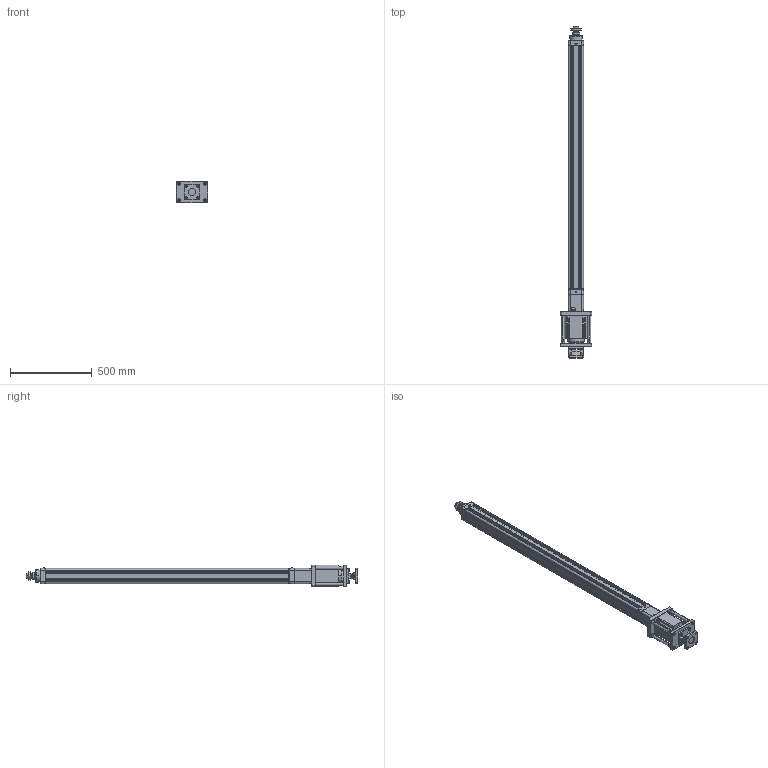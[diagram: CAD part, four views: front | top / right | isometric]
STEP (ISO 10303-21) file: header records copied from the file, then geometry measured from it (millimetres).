
FILE_DESCRIPTION((''),'2;1');
FILE_NAME('HE80-D-P_ASM','2020-05-14T',('ASUS20200'),(''),'CREO PARAMETRIC BY PTC INC, 2014190','CREO PARAMETRIC BY PTC INC, 2014190','');
FILE_SCHEMA(('CONFIG_CONTROL_DESIGN'));
Length unit declared in the file: millimetre
Products named in the file (29): HE80-D-P-001-X1; HE80-D-P-002-X1; HE80-D-P-003-X1; 30304J; YZ-M6X1; SLM-01; JDB506030; HE80-100-D-P-X1_ASM; HE80-D-009-X1; HE80-D-010-X1-130N; M10X110; SKT-20; M8X20; 130ST-M10010; JX6X6X40; TD-8; M8X40; HE80-D-P-005-X1; HE80-D-P-004-X1; HE80-D-P-008-X1; LGLM-M10-25; HE80-FB-LG; F-HE80FB; M10X30; F-SE80CB; F-SE80CB-XD; F-SE80CB_ASM; F-SE80CA; HE80-D-P_ASM
Assembly tree (59 placements, depth 3):
  HE80-D-P_ASM
    HE80-100-D-P-X1_ASM
      HE80-D-P-001-X1
      HE80-D-P-002-X1
      HE80-D-P-003-X1
      30304J  x2
      YZ-M6X1
      SLM-01
      JDB506030
    HE80-D-009-X1
    HE80-D-010-X1-130N
    M10X110  x4
    SKT-20  x2
    M8X20  x4
    130ST-M10010
    JX6X6X40
    TD-8  x4
    M8X40  x4
    HE80-D-P-005-X1
    HE80-D-P-004-X1
    HE80-D-P-008-X1
    LGLM-M10-25  x4
    HE80-FB-LG  x4
    F-HE80FB
    M10X30  x12
    F-SE80CB_ASM
      F-SE80CB
      F-SE80CB-XD
    F-SE80CA
Bounding box: 190 x 2029 x 130.01 mm (x, y, z)
Volume: 8657252.9 mm3; surface area: 2384076.3 mm2
Topology: 57 solids, 92 shells, 2342 faces, 5335 edges, 3254 vertices
Faces by surface type: plane 798, cylinder 686, cone 678, torus 146, sphere 30, bspline 4
Entity records: 48150 total; most frequent: CARTESIAN_POINT 8960, DIRECTION 8818, ORIENTED_EDGE 7392, EDGE_CURVE 3751, AXIS2_PLACEMENT_3D 3471, VERTEX_POINT 2286, EDGE_LOOP 1937, VECTOR 1876
